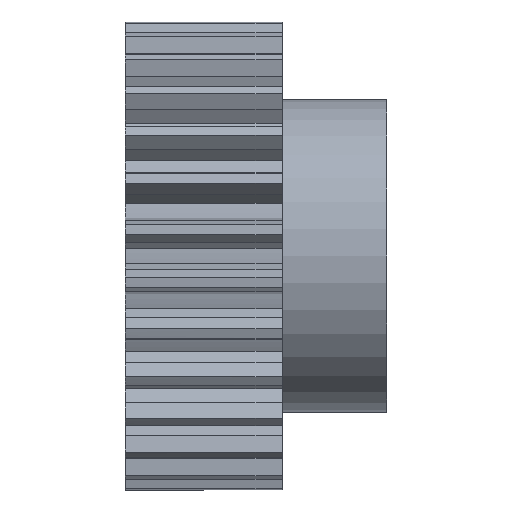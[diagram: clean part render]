
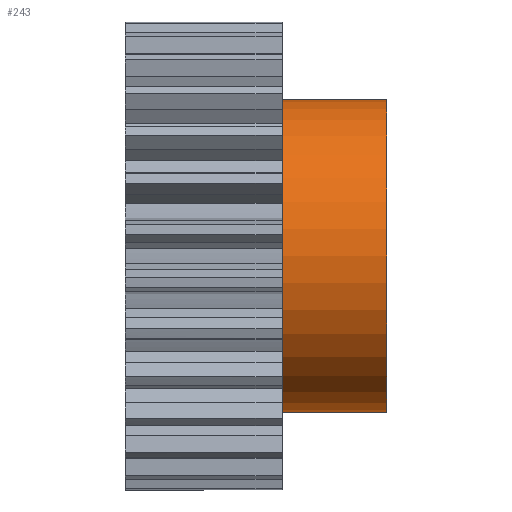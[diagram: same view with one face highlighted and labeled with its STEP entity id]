
A CAD part, front view. The second image highlights one B-rep face of the part: STEP entity #243.
In plain terms, the highlighted cylindrical face has radius 30 mm (diameter 60 mm), a partial arc.
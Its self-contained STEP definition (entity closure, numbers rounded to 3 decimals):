
#231 = ORIENTED_EDGE ( 'NONE', *, *, #4207, .F. ) ;
#233 = ORIENTED_EDGE ( 'NONE', *, *, #4196, .T. ) ;
#243 = ADVANCED_FACE ( 'NONE', ( #4616 ), #4586, .T. ) ;
#253 = ORIENTED_EDGE ( 'NONE', *, *, #3523, .T. ) ;
#502 = CARTESIAN_POINT ( 'NONE',  ( 35., 0., 0. ) ) ;
#545 = DIRECTION ( 'NONE',  ( 0., 0., 1. ) ) ;
#547 = DIRECTION ( 'NONE',  ( -1., 0., 0. ) ) ;
#548 = AXIS2_PLACEMENT_3D ( 'NONE', #502, #547, #545 ) ;
#549 = CIRCLE ( 'NONE', #548, 30. ) ;
#1549 = CARTESIAN_POINT ( 'NONE',  ( 15., 0., 30. ) ) ;
#1578 = CARTESIAN_POINT ( 'NONE',  ( 15., 0., -30. ) ) ;
#1580 = CARTESIAN_POINT ( 'NONE',  ( 35., 0., 30. ) ) ;
#1657 = DIRECTION ( 'NONE',  ( -1., 0., 0. ) ) ;
#1658 = VECTOR ( 'NONE', #1657, 1000. ) ;
#1659 = CARTESIAN_POINT ( 'NONE',  ( 15., 0., 30. ) ) ;
#1660 = LINE ( 'NONE', #1659, #1658 ) ;
#1694 = DIRECTION ( 'NONE',  ( -1., 0., 0. ) ) ;
#1695 = VECTOR ( 'NONE', #1694, 1000. ) ;
#1696 = CARTESIAN_POINT ( 'NONE',  ( 15., 0., -30. ) ) ;
#1699 = CARTESIAN_POINT ( 'NONE',  ( 35., 0., -30. ) ) ;
#1708 = LINE ( 'NONE', #1696, #1695 ) ;
#1769 = DIRECTION ( 'NONE',  ( 0., 0., 1. ) ) ;
#1770 = DIRECTION ( 'NONE',  ( 1., 0., 0. ) ) ;
#1771 = CARTESIAN_POINT ( 'NONE',  ( 15., 0., 0. ) ) ;
#1782 = CIRCLE ( 'NONE', #1783, 30. ) ;
#1783 = AXIS2_PLACEMENT_3D ( 'NONE', #1771, #1770, #1769 ) ;
#3490 = ORIENTED_EDGE ( 'NONE', *, *, #5116, .T. ) ;
#3495 = EDGE_LOOP ( 'NONE', ( #231, #253, #233, #3490 ) ) ;
#3523 = EDGE_CURVE ( 'NONE', #4208, #4144, #549, .T. ) ;
#4126 = VERTEX_POINT ( 'NONE', #1549 ) ;
#4142 = VERTEX_POINT ( 'NONE', #1578 ) ;
#4144 = VERTEX_POINT ( 'NONE', #1580 ) ;
#4196 = EDGE_CURVE ( 'NONE', #4144, #4126, #1660, .T. ) ;
#4207 = EDGE_CURVE ( 'NONE', #4208, #4142, #1708, .T. ) ;
#4208 = VERTEX_POINT ( 'NONE', #1699 ) ;
#4586 = CYLINDRICAL_SURFACE ( 'NONE', #4630, 30. ) ;
#4588 = CARTESIAN_POINT ( 'NONE',  ( 15., 0., 0. ) ) ;
#4616 = FACE_OUTER_BOUND ( 'NONE', #3495, .T. ) ;
#4621 = DIRECTION ( 'NONE',  ( 0., 0., 1. ) ) ;
#4622 = DIRECTION ( 'NONE',  ( -1., 0., 0. ) ) ;
#4630 = AXIS2_PLACEMENT_3D ( 'NONE', #4588, #4622, #4621 ) ;
#5116 = EDGE_CURVE ( 'NONE', #4126, #4142, #1782, .T. ) ;
